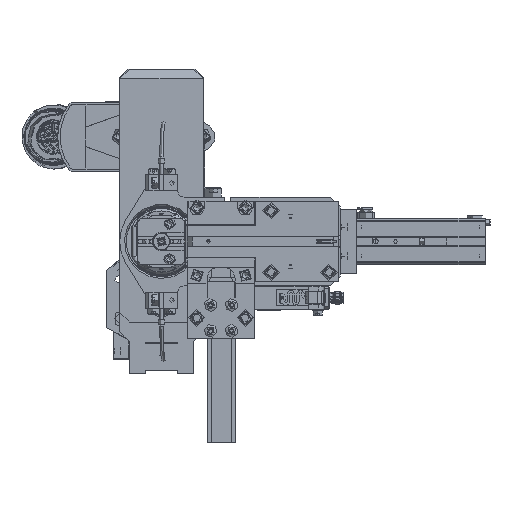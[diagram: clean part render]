
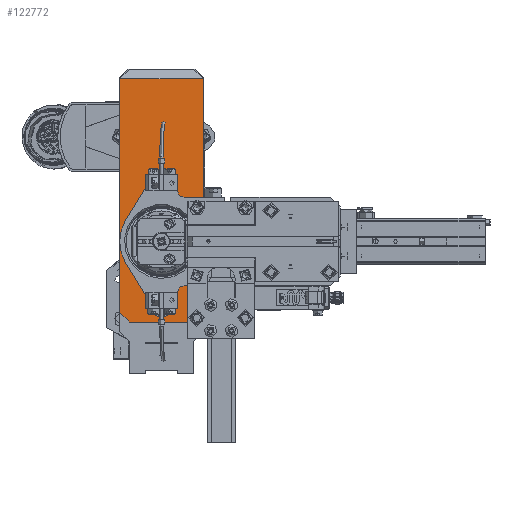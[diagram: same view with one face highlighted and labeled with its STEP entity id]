
A CAD part, left-side view. The second image highlights one B-rep face of the part: STEP entity #122772.
In plain terms, the highlighted planar face has unit normal (-1, 0, 0).
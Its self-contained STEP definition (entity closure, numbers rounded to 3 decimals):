
#5273=FACE_BOUND($,#25039,.T.);
#5274=FACE_BOUND($,#25040,.T.);
#5275=FACE_BOUND($,#25041,.T.);
#5276=FACE_BOUND($,#25042,.T.);
#8888=CIRCLE($,#132392,21.);
#8918=CIRCLE($,#132462,7.5);
#8919=CIRCLE($,#132463,7.5);
#25039=EDGE_LOOP($,(#88501));
#25040=EDGE_LOOP($,(#88502));
#25041=EDGE_LOOP($,(#88503));
#25042=EDGE_LOOP($,(#88504,#88505,#88506,#88507,#88508,#88509));
#32053=LINE($,#182437,#40530);
#34482=LINE($,#209880,#42959);
#34521=LINE($,#210038,#42998);
#34522=LINE($,#210040,#42999);
#34523=LINE($,#210042,#43000);
#34524=LINE($,#210043,#43001);
#40530=VECTOR($,#143827,145.);
#42959=VECTOR($,#153058,145.);
#42998=VECTOR($,#153181,52.);
#42999=VECTOR($,#153182,8.485);
#43000=VECTOR($,#153183,40.);
#43001=VECTOR($,#153184,8.485);
#49732=VERTEX_POINT($,#182434);
#49733=VERTEX_POINT($,#182436);
#52978=VERTEX_POINT($,#209724);
#53009=VERTEX_POINT($,#209877);
#53010=VERTEX_POINT($,#209879);
#53044=VERTEX_POINT($,#210034);
#53045=VERTEX_POINT($,#210036);
#53046=VERTEX_POINT($,#210039);
#53047=VERTEX_POINT($,#210041);
#61525=EDGE_CURVE($,#49732,#49733,#32053,.T.);
#66106=EDGE_CURVE($,#52978,#52978,#8888,.T.);
#66144=EDGE_CURVE($,#53009,#53010,#34482,.T.);
#66199=EDGE_CURVE($,#53044,#53044,#8918,.T.);
#66200=EDGE_CURVE($,#53045,#53045,#8919,.T.);
#66201=EDGE_CURVE($,#53010,#49732,#34521,.T.);
#66202=EDGE_CURVE($,#53046,#53009,#34522,.T.);
#66203=EDGE_CURVE($,#53047,#53046,#34523,.T.);
#66204=EDGE_CURVE($,#49733,#53047,#34524,.T.);
#88501=ORIENTED_EDGE($,*,*,#66199,.T.);
#88502=ORIENTED_EDGE($,*,*,#66200,.T.);
#88503=ORIENTED_EDGE($,*,*,#66106,.F.);
#88504=ORIENTED_EDGE($,*,*,#66201,.F.);
#88505=ORIENTED_EDGE($,*,*,#66144,.F.);
#88506=ORIENTED_EDGE($,*,*,#66202,.F.);
#88507=ORIENTED_EDGE($,*,*,#66203,.F.);
#88508=ORIENTED_EDGE($,*,*,#66204,.F.);
#88509=ORIENTED_EDGE($,*,*,#61525,.F.);
#109974=PLANE($,#132461);
#122772=ADVANCED_FACE($,(#5273,#5274,#5275,#5276),#109974,.T.);
#132392=AXIS2_PLACEMENT_3D($,#209725,#152979,#152980);
#132461=AXIS2_PLACEMENT_3D($,#210033,#153175,#153176);
#132462=AXIS2_PLACEMENT_3D($,#210035,#153177,#153178);
#132463=AXIS2_PLACEMENT_3D($,#210037,#153179,#153180);
#143827=DIRECTION($,(0.,0.,-1.));
#152979=DIRECTION('center_axis',(-1.,0.,0.));
#152980=DIRECTION('ref_axis',(0.,1.,0.));
#153058=DIRECTION($,(0.,0.,1.));
#153175=DIRECTION('center_axis',(-1.,0.,0.));
#153176=DIRECTION('ref_axis',(0.,0.,1.));
#153177=DIRECTION('center_axis',(1.,0.,0.));
#153178=DIRECTION('ref_axis',(0.,0.,
1.));
#153179=DIRECTION('center_axis',(1.,0.,0.));
#153180=DIRECTION('ref_axis',(0.,0.,
1.));
#153181=DIRECTION($,(0.,-1.,0.));
#153182=DIRECTION($,(0.,0.707,0.707));
#153183=DIRECTION($,(0.,1.,0.));
#153184=DIRECTION($,(0.,0.707,-0.707));
#182434=CARTESIAN_POINT('',(-12.,-26.,163.));
#182436=CARTESIAN_POINT('',(-12.,-26.,18.));
#182437=CARTESIAN_POINT($,(-12.,-26.,12.));
#209724=CARTESIAN_POINT('',(-12.,0.,83.));
#209725=CARTESIAN_POINT('Origin',(-12.,0.,62.));
#209877=CARTESIAN_POINT('',(-12.,26.,18.));
#209879=CARTESIAN_POINT('',(-12.,26.,163.));
#209880=CARTESIAN_POINT($,(-12.,26.,169.));
#210033=CARTESIAN_POINT('Origin',(-12.,0.,90.5));
#210034=CARTESIAN_POINT('',(-12.,0.,29.));
#210035=CARTESIAN_POINT('Origin',(-12.,0.,21.5));
#210036=CARTESIAN_POINT('',(-12.,0.,101.5));
#210037=CARTESIAN_POINT('Origin',(-12.,0.,94.));
#210038=CARTESIAN_POINT($,(-12.,13.,163.));
#210039=CARTESIAN_POINT('',(-12.,20.,12.));
#210040=CARTESIAN_POINT($,(-12.,36.125,28.125));
#210041=CARTESIAN_POINT('',(-12.,-20.,12.));
#210042=CARTESIAN_POINT($,(-12.,26.,12.));
#210043=CARTESIAN_POINT($,(-12.,-36.125,28.125));
